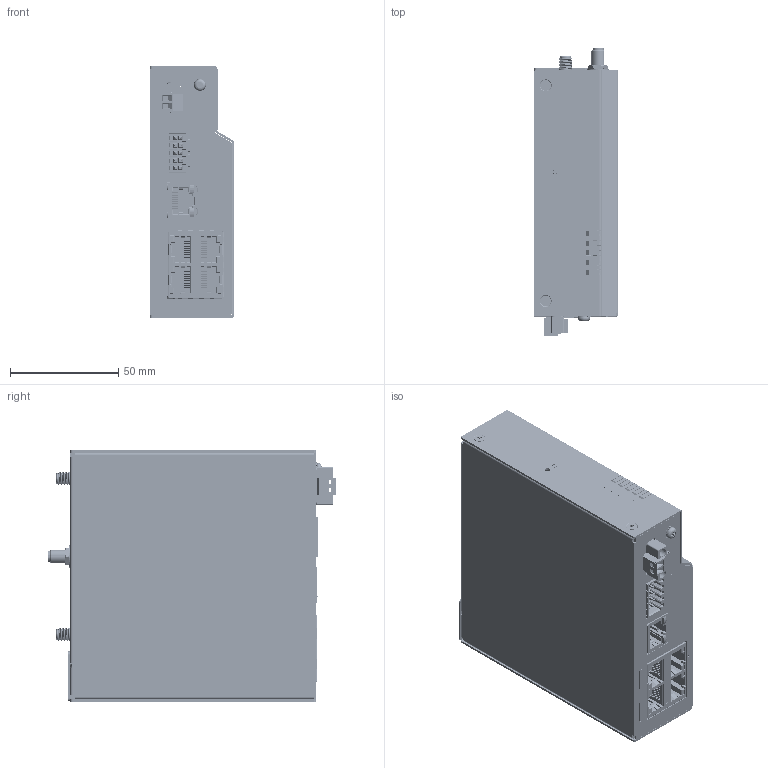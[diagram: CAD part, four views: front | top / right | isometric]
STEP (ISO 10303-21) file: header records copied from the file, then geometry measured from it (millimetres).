
FILE_DESCRIPTION (( 'STEP AP214' ), '1' );
FILE_NAME ('ICR-1645G.STEP', '2024-10-01T00:52:44', ( '' ), ( '' ), 'SwSTEP 2.0', 'SolidWorks 2022', '' );
FILE_SCHEMA (( 'AUTOMOTIVE_DESIGN' ));
Length unit declared in the file: millimetre
Products named in the file (42): sma-R_cable_to_ipex1_0901_part; 1960116135T000_CHASSIS_1745_CHASSIS_ICR-1645W; PRT0005_1_1_2.stp; 1990032849T000-LENS_WISE-7000; 1652000984-20230908-1745-20231227_默认; 1304006098-01-1745_默认; DEFAULT-4_1-20231227; 1653008935-01-1745-20231227_默认; 1600003018-01-20230908-1745-20231227_默认; DEFAULT-1_1-20231227; 193B020402_默认; 1960055896S000; PRT0003_1_1_2.stp; 1931030520_默认; DEFAULT-5_1-20231227; assy_ICR-1745-20231218-20231227_assy-icr-1645; DEFAULT-2_1-20231227; DEFAULT-3_1-20231227; pcb_ICR-1745_20231218-20231227; 1304006097-01-1745_默认; con10304a_p01_asm.stp; 1960114865N000_PLATE FOR SIM CARD; DEFAULT_1-20231227; 1654014673-01-singleRJ1401-88UEXCRX00-20231227; PRT0002_1_1_2.stp; 1935130610_默认; 1652008392-01-dinkle_0156-2510-20230908-1745-20231227; CZT24H-052; PRT0004_1_1_2.stp; 1960114863N000_plate OF lens; PC LABEL-1745_TOP; 1960116134T000_COVER_1745_cover_silk; 1990041438T000_FRAME; 1654002618-1745-20231227_默认; ASM0001_ASM_1_1_2_ASM.stp; con10304a_p01_asm-1745-20231227; ICR-1645G; SIM5-06F1-KNM1-01 -1745-20231227; 1652002024_默认; 90_1_1_2.stp
Assembly tree (58 placements, depth 6):
  ICR-1645G
    1960116135T000_CHASSIS_1745_CHASSIS_ICR-1645W
    assy_ICR-1745-20231218-20231227_assy-icr-1645
      pcb_ICR-1745_20231218-20231227
      1652008392-01-dinkle_0156-2510-20230908-1745-20231227
      1652000984-20230908-1745-20231227_默认
      con10304a_p01_asm-1745-20231227  x2
        con10304a_p01_asm.stp
          ASM0001_ASM_1_1_2_ASM.stp
            90_1_1_2.stp
            PRT0002_1_1_2.stp
            PRT0003_1_1_2.stp
            PRT0004_1_1_2.stp
            PRT0005_1_1_2.stp
      SIM5-06F1-KNM1-01 -1745-20231227  x2
      1304006098-01-1745_默认  x2
      1304006097-01-1745_默认  x3
      1600003018-01-20230908-1745-20231227_默认
      1653008935-01-1745-20231227_默认  x3
      1654014673-01-singleRJ1401-88UEXCRX00-20231227
        DEFAULT-1_1-20231227
          DEFAULT_1-20231227
          DEFAULT-1_1-20231227
          DEFAULT-2_1-20231227
          DEFAULT-3_1-20231227
          DEFAULT_1-20231227
            DEFAULT-4_1-20231227
            DEFAULT-5_1-20231227
      CZT24H-052
      1654002618-1745-20231227_默认
      1960055896S000
    1960116134T000_COVER_1745_cover_silk
    1990032849T000-LENS_WISE-7000
    1960114865N000_PLATE FOR SIM CARD
    1935130610_默认
    1960114863N000_plate OF lens
    1931030520_默认  x6
    1990041438T000_FRAME
    1652002024_默认
    193B020402_默认  x6
    PC LABEL-1745_TOP
    sma-R_cable_to_ipex1_0901_part
Bounding box: 39 x 133.1 x 116 mm (x, y, z)
Volume: 89716.9 mm3; surface area: 164853.9 mm2
Topology: 77 solids, 114 shells, 15385 faces, 42620 edges, 27546 vertices
Faces by surface type: plane 8058, bspline 3921, cylinder 3188, cone 159, torus 39, sphere 20
Entity records: 591360 total; most frequent: CARTESIAN_POINT 181244, ORIENTED_EDGE 73999, DIRECTION 52503, EDGE_CURVE 37045, VECTOR 24201, LINE 24201, VERTEX_POINT 24064, EDGE_LOOP 14445
